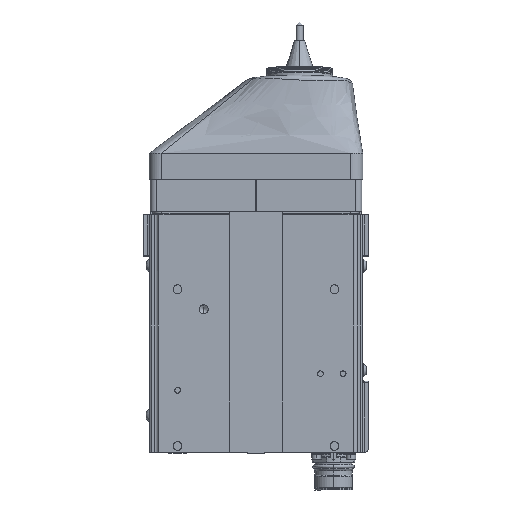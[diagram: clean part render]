
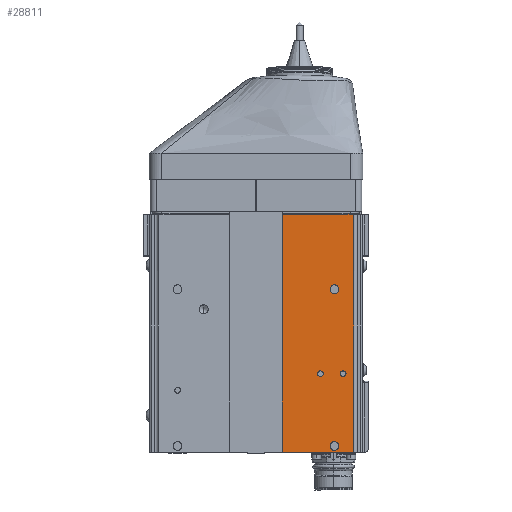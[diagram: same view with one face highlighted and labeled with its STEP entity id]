
A CAD part, front view. The second image highlights one B-rep face of the part: STEP entity #28811.
In plain terms, the highlighted planar face has unit normal (0, -1, 0).
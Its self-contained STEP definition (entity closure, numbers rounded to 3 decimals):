
#725 = CIRCLE ( 'NONE', #754, 0.3 ) ;
#742 = CIRCLE ( 'NONE', #745, 2.5 ) ;
#744 = CIRCLE ( 'NONE', #747, 2.5 ) ;
#745 = AXIS2_PLACEMENT_3D ( 'NONE', #1944, #1945, #1946 ) ;
#746 = CIRCLE ( 'NONE', #749, 1.65 ) ;
#747 = AXIS2_PLACEMENT_3D ( 'NONE', #1947, #1948, #1949 ) ;
#748 = CIRCLE ( 'NONE', #751, 1.65 ) ;
#749 = AXIS2_PLACEMENT_3D ( 'NONE', #1952, #1953, #1954 ) ;
#750 = VECTOR ( 'NONE', #1960, 1000. ) ;
#751 = AXIS2_PLACEMENT_3D ( 'NONE', #1956, #1957, #1958 ) ;
#753 = VECTOR ( 'NONE', #1965, 1000. ) ;
#754 = AXIS2_PLACEMENT_3D ( 'NONE', #1962, #1963, #1964 ) ;
#1944 = CARTESIAN_POINT ( 'NONE',  ( 45., 0., 94. ) ) ;
#1945 = DIRECTION ( 'NONE',  ( 0., -1., 0. ) ) ;
#1946 = DIRECTION ( 'NONE',  ( 0., 0., -1. ) ) ;
#1947 = CARTESIAN_POINT ( 'NONE',  ( 45., 0., 4. ) ) ;
#1948 = DIRECTION ( 'NONE',  ( 0., -1., 0. ) ) ;
#1949 = DIRECTION ( 'NONE',  ( 0., 0., -1. ) ) ;
#1950 = LINE ( 'NONE', #1951, #750 ) ;
#1951 = CARTESIAN_POINT ( 'NONE',  ( 56., 0., 137. ) ) ;
#1952 = CARTESIAN_POINT ( 'NONE',  ( 37., 0., 45.5 ) ) ;
#1953 = DIRECTION ( 'NONE',  ( 0., 1., 0. ) ) ;
#1954 = DIRECTION ( 'NONE',  ( 0., 0., 1. ) ) ;
#1955 = CARTESIAN_POINT ( 'NONE',  ( 15., 0., 0.5 ) ) ;
#1956 = CARTESIAN_POINT ( 'NONE',  ( 50., 0., 45.5 ) ) ;
#1957 = DIRECTION ( 'NONE',  ( 0., 1., 0. ) ) ;
#1958 = DIRECTION ( 'NONE',  ( 0., 0., 1. ) ) ;
#1959 = LINE ( 'NONE', #1955, #753 ) ;
#1960 = DIRECTION ( 'NONE',  ( 0., 0., 1. ) ) ;
#1962 = CARTESIAN_POINT ( 'NONE',  ( 55.7, 0., 136.7 ) ) ;
#1963 = DIRECTION ( 'NONE',  ( 0., -1., 0. ) ) ;
#1964 = DIRECTION ( 'NONE',  ( 0., 0., 1. ) ) ;
#1965 = DIRECTION ( 'NONE',  ( 0., 0., 1. ) ) ;
#9158 = EDGE_CURVE ( 'NONE', #25595, #25661, #47040, .T. ) ;
#15498 = CIRCLE ( 'NONE', #15505, 1.65 ) ;
#15505 = AXIS2_PLACEMENT_3D ( 'NONE', #39990, #39991, #39992 ) ;
#15524 = CIRCLE ( 'NONE', #15529, 2.5 ) ;
#15529 = AXIS2_PLACEMENT_3D ( 'NONE', #40011, #40012, #40013 ) ;
#17430 = ORIENTED_EDGE ( 'NONE', *, *, #34676, .F. ) ;
#17461 = ORIENTED_EDGE ( 'NONE', *, *, #23549, .F. ) ;
#17465 = ORIENTED_EDGE ( 'NONE', *, *, #9158, .F. ) ;
#17467 = ORIENTED_EDGE ( 'NONE', *, *, #34682, .F. ) ;
#17469 = ORIENTED_EDGE ( 'NONE', *, *, #34680, .T. ) ;
#17471 = ORIENTED_EDGE ( 'NONE', *, *, #23102, .T. ) ;
#17473 = ORIENTED_EDGE ( 'NONE', *, *, #34679, .T. ) ;
#17474 = ORIENTED_EDGE ( 'NONE', *, *, #23409, .T. ) ;
#17478 = ORIENTED_EDGE ( 'NONE', *, *, #34678, .T. ) ;
#17480 = ORIENTED_EDGE ( 'NONE', *, *, #23109, .F. ) ;
#17482 = ORIENTED_EDGE ( 'NONE', *, *, #34681, .T. ) ;
#17484 = ORIENTED_EDGE ( 'NONE', *, *, #34677, .F. ) ;
#17488 = ORIENTED_EDGE ( 'NONE', *, *, #23377, .F. ) ;
#17559 = VERTEX_POINT ( 'NONE', #39174 ) ;
#17584 = VERTEX_POINT ( 'NONE', #39191 ) ;
#17594 = VERTEX_POINT ( 'NONE', #39201 ) ;
#17597 = VERTEX_POINT ( 'NONE', #39204 ) ;
#17615 = VERTEX_POINT ( 'NONE', #39222 ) ;
#17625 = VERTEX_POINT ( 'NONE', #39232 ) ;
#17626 = VERTEX_POINT ( 'NONE', #39233 ) ;
#17635 = VERTEX_POINT ( 'NONE', #39242 ) ;
#18476 = VECTOR ( 'NONE', #42078, 1000. ) ;
#21375 = VERTEX_POINT ( 'NONE', #39407 ) ;
#23102 = EDGE_CURVE ( 'NONE', #17626, #17597, #15498, .T. ) ;
#23109 = EDGE_CURVE ( 'NONE', #17584, #17625, #15524, .T. ) ;
#23377 = EDGE_CURVE ( 'NONE', #17594, #17615, #46283, .T. ) ;
#23409 = EDGE_CURVE ( 'NONE', #17635, #17559, #46324, .T. ) ;
#23549 = EDGE_CURVE ( 'NONE', #24188, #21375, #42053, .T. ) ;
#24188 = VERTEX_POINT ( 'NONE', #58640 ) ;
#24488 = VERTEX_POINT ( 'NONE', #59201 ) ;
#25595 = VERTEX_POINT ( 'NONE', #60591 ) ;
#25661 = VERTEX_POINT ( 'NONE', #60616 ) ;
#28811 = ADVANCED_FACE ( 'NONE', ( #37215, #37218, #37222, #37213, #37206 ), #37226, .F. ) ;
#30854 = AXIS2_PLACEMENT_3D ( 'NONE', #37220, #37228, #37230 ) ;
#34676 = EDGE_CURVE ( 'NONE', #17615, #17594, #742, .T. ) ;
#34677 = EDGE_CURVE ( 'NONE', #17625, #17584, #744, .T. ) ;
#34678 = EDGE_CURVE ( 'NONE', #17559, #17635, #746, .T. ) ;
#34679 = EDGE_CURVE ( 'NONE', #17597, #17626, #748, .T. ) ;
#34680 = EDGE_CURVE ( 'NONE', #24188, #24488, #1950, .T. ) ;
#34681 = EDGE_CURVE ( 'NONE', #24488, #25661, #725, .T. ) ;
#34682 = EDGE_CURVE ( 'NONE', #21375, #25595, #1959, .T. ) ;
#37206 = FACE_OUTER_BOUND ( 'NONE', #50001, .T. ) ;
#37213 = FACE_BOUND ( 'NONE', #49991, .T. ) ;
#37215 = FACE_BOUND ( 'NONE', #49993, .T. ) ;
#37218 = FACE_BOUND ( 'NONE', #50032, .T. ) ;
#37220 = CARTESIAN_POINT ( 'NONE',  ( -61., 0., 137. ) ) ;
#37222 = FACE_BOUND ( 'NONE', #49989, .T. ) ;
#37226 = PLANE ( 'NONE',  #30854 ) ;
#37228 = DIRECTION ( 'NONE',  ( 0., 1., 0. ) ) ;
#37230 = DIRECTION ( 'NONE',  ( 0., 0., 1. ) ) ;
#39174 = CARTESIAN_POINT ( 'NONE',  ( 37., 0., 47.15 ) ) ;
#39191 = CARTESIAN_POINT ( 'NONE',  ( 45., 0., 6.5 ) ) ;
#39201 = CARTESIAN_POINT ( 'NONE',  ( 45., 0., 96.5 ) ) ;
#39204 = CARTESIAN_POINT ( 'NONE',  ( 50., 0., 47.15 ) ) ;
#39222 = CARTESIAN_POINT ( 'NONE',  ( 45., 0., 91.5 ) ) ;
#39232 = CARTESIAN_POINT ( 'NONE',  ( 45., 0., 1.5 ) ) ;
#39233 = CARTESIAN_POINT ( 'NONE',  ( 50., 0., 43.85 ) ) ;
#39242 = CARTESIAN_POINT ( 'NONE',  ( 37., 0., 43.85 ) ) ;
#39407 = CARTESIAN_POINT ( 'NONE',  ( 15., 0., 0.5 ) ) ;
#39990 = CARTESIAN_POINT ( 'NONE',  ( 50., 0., 45.5 ) ) ;
#39991 = DIRECTION ( 'NONE',  ( 0., 1., 0. ) ) ;
#39992 = DIRECTION ( 'NONE',  ( 0., 0., 1. ) ) ;
#40011 = CARTESIAN_POINT ( 'NONE',  ( 45., 0., 4. ) ) ;
#40012 = DIRECTION ( 'NONE',  ( 0., -1., 0. ) ) ;
#40013 = DIRECTION ( 'NONE',  ( 0., 0., -1. ) ) ;
#42053 = LINE ( 'NONE', #42057, #18476 ) ;
#42057 = CARTESIAN_POINT ( 'NONE',  ( -61., 0., 0.5 ) ) ;
#42078 = DIRECTION ( 'NONE',  ( -1., 0., 0. ) ) ;
#45592 = CARTESIAN_POINT ( 'NONE',  ( 45., 0., 94. ) ) ;
#45593 = DIRECTION ( 'NONE',  ( 0., -1., 0. ) ) ;
#45594 = DIRECTION ( 'NONE',  ( 0., 0., -1. ) ) ;
#45699 = CARTESIAN_POINT ( 'NONE',  ( 37., 0., 45.5 ) ) ;
#45700 = DIRECTION ( 'NONE',  ( 0., 1., 0. ) ) ;
#45701 = DIRECTION ( 'NONE',  ( 0., 0., 1. ) ) ;
#46283 = CIRCLE ( 'NONE', #46284, 2.5 ) ;
#46284 = AXIS2_PLACEMENT_3D ( 'NONE', #45592, #45593, #45594 ) ;
#46324 = CIRCLE ( 'NONE', #46327, 1.65 ) ;
#46327 = AXIS2_PLACEMENT_3D ( 'NONE', #45699, #45700, #45701 ) ;
#47040 = LINE ( 'NONE', #47051, #48708 ) ;
#47051 = CARTESIAN_POINT ( 'NONE',  ( -61., 0., 137. ) ) ;
#47060 = DIRECTION ( 'NONE',  ( 1., 0., 0. ) ) ;
#48708 = VECTOR ( 'NONE', #47060, 1000. ) ;
#49989 = EDGE_LOOP ( 'NONE', ( #17478, #17474 ) ) ;
#49991 = EDGE_LOOP ( 'NONE', ( #17473, #17471 ) ) ;
#49993 = EDGE_LOOP ( 'NONE', ( #17430, #17488 ) ) ;
#50001 = EDGE_LOOP ( 'NONE', ( #17469, #17482, #17465, #17467, #17461 ) ) ;
#50032 = EDGE_LOOP ( 'NONE', ( #17484, #17480 ) ) ;
#58640 = CARTESIAN_POINT ( 'NONE',  ( 56., 0., 0.5 ) ) ;
#59201 = CARTESIAN_POINT ( 'NONE',  ( 56., 0., 136.7 ) ) ;
#60591 = CARTESIAN_POINT ( 'NONE',  ( 15., 0., 137. ) ) ;
#60616 = CARTESIAN_POINT ( 'NONE',  ( 55.7, 0., 137. ) ) ;
